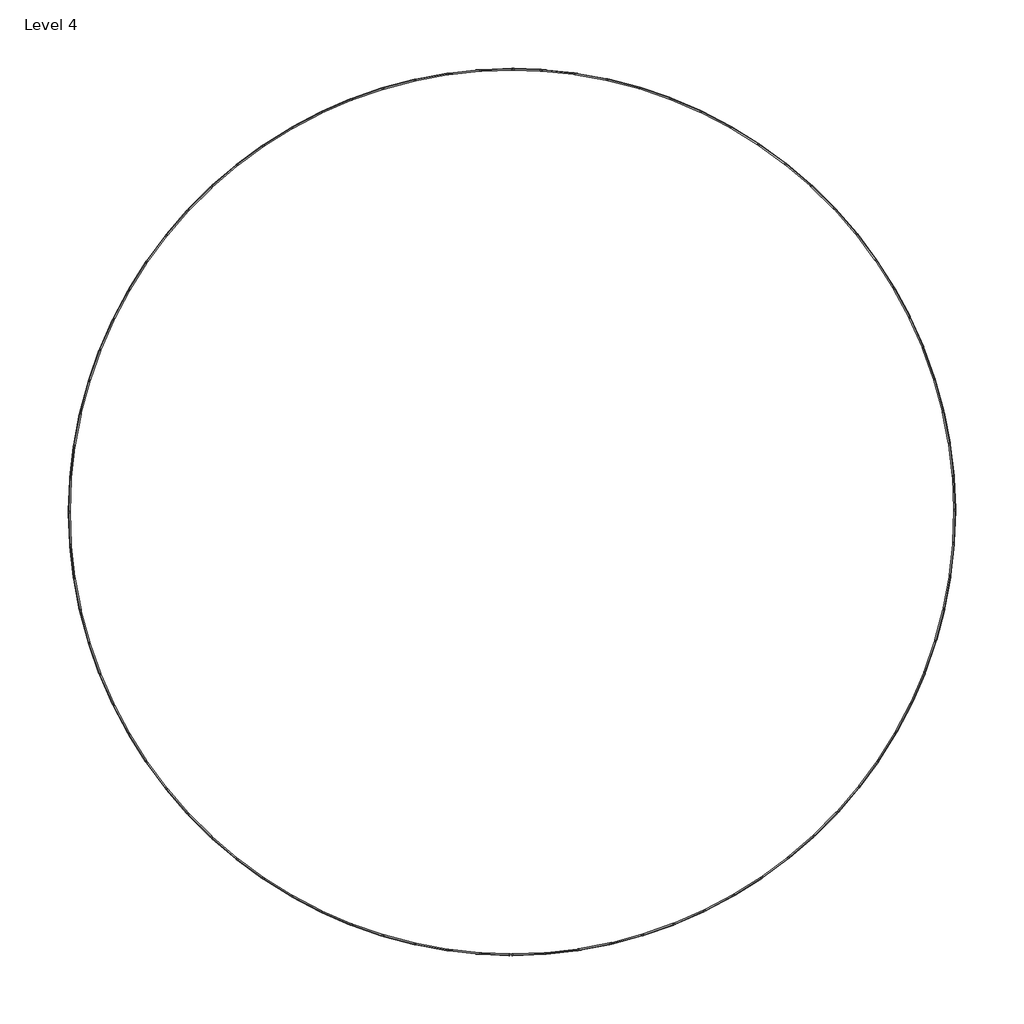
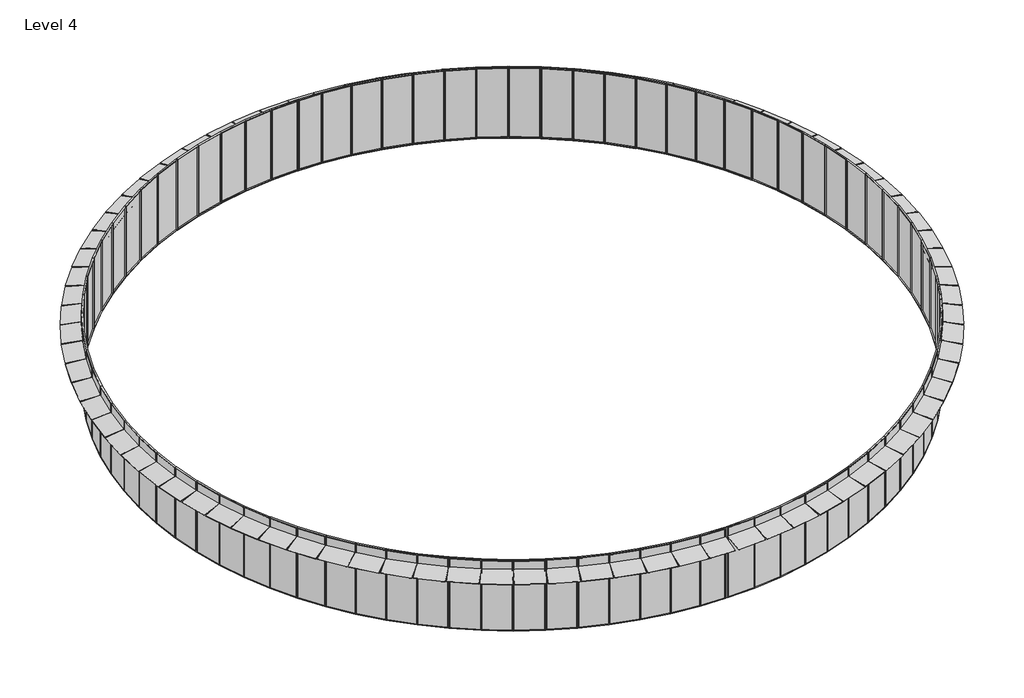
# One storey: 84 plates.
"""IFC4 building model written with IfcOpenShell, lengths in millimetres."""

from ifc_helpers import new_model, si_unit, origin, place, context, project, spatial, transform, mapped, element, save
from components import typical_panel_typical_panel_1d89b396, typical_panel_typical_panel_922f9ec0, typical_panel_typical_panel_46f82321

model = new_model("IFC4")

# Units and contexts
model_context = context("Model", 3, world=origin())
ifc_project = project(units=[si_unit("LENGTHUNIT", "METRE", prefix="MILLI")], contexts=[model_context])

# Site, building, storey
site = spatial("IfcSite", under=ifc_project)
building = spatial("IfcBuilding", under=site)
storey = spatial("IfcBuildingStorey", under=building, Name="Level 4", Elevation=12000.0)

# Plates
placement = place(None, origin())
typical_panel_typical_panel_shape = typical_panel_typical_panel_1d89b396(model_context)
element("IfcPlate", 1, ObjectType="Typical Panel : Typical Panel", at=placement, inside=storey, context=model_context, shape_type="MappedRepresentation", body=[
    mapped(typical_panel_typical_panel_shape, transform((749.4724807, -19971.8749993, 12000.0), x_axis=(0.9992966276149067, 0.037500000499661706, 0.0), y_axis=(-0.037500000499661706, 0.9992966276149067, 0.0), z_axis=(0.0, 0.0, 1.0))),
])
element("IfcPlate", 2, ObjectType="Typical Panel : Typical Panel", at=placement, inside=storey, context=model_context, shape_type="MappedRepresentation", body=[
    mapped(typical_panel_typical_panel_shape, transform((-658.0734428, 19975.0954773, 12000.0), x_axis=(-0.9994577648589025, -0.03292683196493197, 0.0), y_axis=(0.03292683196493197, -0.9994577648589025, 0.0), z_axis=(0.0, 0.0, 1.0))),
])
typical_panel_typical_panel_2_shape = typical_panel_typical_panel_922f9ec0(model_context)
element("IfcPlate", 3, ObjectType="Typical Panel : Typical Panel", at=placement, inside=storey, context=model_context, shape_type="MappedRepresentation", body=[
    mapped(typical_panel_typical_panel_2_shape, transform((2244.2016494, -19859.5332009, 12000.0), x_axis=(0.993675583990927, 0.11228906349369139, 0.0), y_axis=(-0.11228906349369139, 0.993675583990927, 0.0), z_axis=(0.0, 0.0, 1.0))),
])
element("IfcPlate", 4, ObjectType="Typical Panel : Typical Panel", at=placement, inside=storey, context=model_context, shape_type="MappedRepresentation", body=[
    mapped(typical_panel_typical_panel_2_shape, transform((3726.3071738, -19635.4815283, 12000.0), x_axis=(0.9824651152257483, 0.18644650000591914, 0.0), y_axis=(-0.18644650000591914, 0.9824651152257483, 0.0), z_axis=(0.0, 0.0, 1.0))),
])
element("IfcPlate", 5, ObjectType="Typical Panel : Typical Panel", at=placement, inside=storey, context=model_context, shape_type="MappedRepresentation", body=[
    mapped(typical_panel_typical_panel_2_shape, transform((5187.4522204, -19300.980272, 12000.0), x_axis=(0.9657282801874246, 0.25955517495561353, 0.0), y_axis=(-0.25955517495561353, 0.9657282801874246, 0.0), z_axis=(0.0, 0.0, 1.0))),
])
element("IfcPlate", 6, ObjectType="Typical Panel : Typical Panel", at=placement, inside=storey, context=model_context, shape_type="MappedRepresentation", body=[
    mapped(typical_panel_typical_panel_2_shape, transform((6619.4178482, -18857.9110018, 12000.0), x_axis=(0.9435592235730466, 0.33120385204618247, 0.0), y_axis=(-0.33120385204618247, 0.9435592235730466, 0.0), z_axis=(0.0, 0.0, 1.0))),
])
element("IfcPlate", 7, ObjectType="Typical Panel : Typical Panel", at=placement, inside=storey, context=model_context, shape_type="MappedRepresentation", body=[
    mapped(typical_panel_typical_panel_2_shape, transform((8014.1492506, -18308.7659821, 12000.0), x_axis=(0.9160826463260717, 0.4009895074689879, 0.0), y_axis=(-0.4009895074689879, 0.9160826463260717, 0.0), z_axis=(0.0, 0.0, 1.0))),
])
element("IfcPlate", 8, ObjectType="Typical Panel : Typical Panel", at=placement, inside=storey, context=model_context, shape_type="MappedRepresentation", body=[
    mapped(typical_panel_typical_panel_2_shape, transform((9363.8010635, -17656.6341539, 12000.0), x_axis=(0.8834531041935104, 0.46851959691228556, 0.0), y_axis=(-0.46851959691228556, 0.8834531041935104, 0.0), z_axis=(0.0, 0.0, 1.0))),
])
element("IfcPlate", 9, ObjectType="Typical Panel : Typical Panel", at=placement, inside=storey, context=model_context, shape_type="MappedRepresentation", body=[
    mapped(typical_panel_typical_panel_2_shape, transform((10660.7814954, -16905.1837585, 12000.0), x_axis=(0.8458541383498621, 0.5334142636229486, 0.0), y_axis=(-0.5334142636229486, 0.8458541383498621, 0.0), z_axis=(0.0, 0.0, 1.0))),
])
element("IfcPlate", 10, ObjectType="Typical Panel : Typical Panel", at=placement, inside=storey, context=model_context, shape_type="MappedRepresentation", body=[
    mapped(typical_panel_typical_panel_2_shape, transform((11897.7950314, -16058.6417044, 12000.0), x_axis=(0.8034972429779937, 0.5953084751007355, 0.0), y_axis=(-0.5953084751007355, 0.8034972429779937, 0.0), z_axis=(0.0, 0.0, 1.0))),
])
element("IfcPlate", 11, ObjectType="Typical Panel : Typical Panel", at=placement, inside=storey, context=model_context, shape_type="MappedRepresentation", body=[
    mapped(typical_panel_typical_panel_2_shape, transform((13067.8834703, -15121.7697908, 12000.0), x_axis=(0.7566206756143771, 0.6538540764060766, 0.0), y_axis=(-0.6538540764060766, 0.7566206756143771, 0.0), z_axis=(0.0, 0.0, 1.0))),
])
element("IfcPlate", 12, ObjectType="Typical Panel : Typical Panel", at=placement, inside=storey, context=model_context, shape_type="MappedRepresentation", body=[
    mapped(typical_panel_typical_panel_2_shape, transform((14164.4650648, -14099.8379221, 12000.0), x_axis=(0.7054881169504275, 0.7087217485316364, 0.0), y_axis=(-0.7087217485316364, 0.7054881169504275, 0.0), z_axis=(0.0, 0.0, 1.0))),
])
element("IfcPlate", 13, ObjectType="Typical Panel : Typical Panel", at=placement, inside=storey, context=model_context, shape_type="MappedRepresentation", body=[
    mapped(typical_panel_typical_panel_2_shape, transform((15181.3715432, -12998.5944651, 12000.0), x_axis=(0.6503871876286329, 0.7596028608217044, 0.0), y_axis=(-0.7596028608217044, 0.6503871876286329, 0.0), z_axis=(0.0, 0.0, 1.0))),
])
element("IfcPlate", 14, ObjectType="Typical Panel : Typical Panel", at=placement, inside=storey, context=model_context, shape_type="MappedRepresentation", body=[
    mapped(typical_panel_typical_panel_2_shape, transform((16112.8828067, -11824.2339142, 12000.0), x_axis=(0.5916278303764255, 0.8062112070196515, 0.0), y_axis=(-0.8062112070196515, 0.5916278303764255, 0.0), z_axis=(0.0, 0.0, 1.0))),
])
element("IfcPlate", 15, ObjectType="Typical Panel : Typical Panel", at=placement, inside=storey, context=model_context, shape_type="MappedRepresentation", body=[
    mapped(typical_panel_typical_panel_2_shape, transform((16953.7591044, -10583.3620475, 12000.0), x_axis=(0.5295405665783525, 0.848284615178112, 0.0), y_axis=(-0.848284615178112, 0.5295405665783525, 0.0), z_axis=(0.0, 0.0, 1.0))),
])
element("IfcPlate", 16, ObjectType="Typical Panel : Typical Panel", at=placement, inside=storey, context=model_context, shape_type="MappedRepresentation", body=[
    mapped(typical_panel_typical_panel_2_shape, transform((17699.2705072, -9282.9587694, 12000.0), x_axis=(0.4644746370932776, 0.8855864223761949, 0.0), y_axis=(-0.8855864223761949, 0.4644746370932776, 0.0), z_axis=(0.0, 0.0, 1.0))),
])
element("IfcPlate", 17, ObjectType="Typical Panel : Typical Panel", at=placement, inside=storey, context=model_context, shape_type="MappedRepresentation", body=[
    mapped(typical_panel_typical_panel_2_shape, transform((18345.2235133, -7930.3388481, 12000.0), x_axis=(0.396796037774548, 0.9179068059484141, 0.0), y_axis=(-0.9179068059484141, 0.396796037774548, 0.0), z_axis=(0.0, 0.0, 1.0))),
])
element("IfcPlate", 18, ObjectType="Typical Panel : Typical Panel", at=placement, inside=storey, context=model_context, shape_type="MappedRepresentation", body=[
    mapped(typical_panel_typical_panel_2_shape, transform((18887.9846372, -6533.1107709, 12000.0), x_axis=(0.32688546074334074, 0.9450639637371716, 0.0), y_axis=(-0.9450639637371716, 0.32688546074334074, 0.0), z_axis=(0.0, 0.0, 1.0))),
])
element("IfcPlate", 19, ObjectType="Typical Panel : Typical Panel", at=placement, inside=storey, context=model_context, shape_type="MappedRepresentation", body=[
    mapped(typical_panel_typical_panel_2_shape, transform((19324.5008475, -5099.1339455, 12000.0), x_axis=(0.25513615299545, 0.9669051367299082, 0.0), y_axis=(-0.9669051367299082, 0.25513615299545, 0.0), z_axis=(0.0, 0.0, 1.0))),
])
element("IfcPlate", 20, ObjectType="Typical Panel : Typical Panel", at=placement, inside=storey, context=model_context, shape_type="MappedRepresentation", body=[
    mapped(typical_panel_typical_panel_2_shape, transform((19652.3167406, -3636.4744917, 12000.0), x_axis=(0.18195170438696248, 0.9833074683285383, 0.0), y_axis=(-0.9833074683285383, 0.18195170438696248, 0.0), z_axis=(0.0, 0.0, 1.0))),
])
element("IfcPlate", 21, ObjectType="Typical Panel : Typical Panel", at=placement, inside=storey, context=model_context, shape_type="MappedRepresentation", body=[
    mapped(typical_panel_typical_panel_2_shape, transform((19869.5883519, -2153.3598689, 12000.0), x_axis=(0.10774377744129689, 0.994178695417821, 0.0), y_axis=(-0.994178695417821, 0.10774377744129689, 0.0), z_axis=(0.0, 0.0, 1.0))),
])
element("IfcPlate", 22, ObjectType="Typical Panel : Typical Panel", at=placement, inside=storey, context=model_context, shape_type="MappedRepresentation", body=[
    mapped(typical_panel_typical_panel_2_shape, transform((19975.0935288, -658.1325968, 12000.0), x_axis=(0.032929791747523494, 0.9994576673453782, 0.0), y_axis=(-0.9994576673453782, 0.032929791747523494, 0.0), z_axis=(0.0, 0.0, 1.0))),
])
element("IfcPlate", 23, ObjectType="Typical Panel : Typical Panel", at=placement, inside=storey, context=model_context, shape_type="MappedRepresentation", body=[
    mapped(typical_panel_typical_panel_2_shape, transform((19968.2388046, 840.7966711, 12000.0), x_axis=(-0.04206942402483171, 0.9991146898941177, 0.0), y_axis=(-0.9991146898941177, -0.04206942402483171, 0.0), z_axis=(0.0, 0.0, 1.0))),
])
element("IfcPlate", 24, ObjectType="Typical Panel : Typical Panel", at=placement, inside=storey, context=model_context, shape_type="MappedRepresentation", body=[
    mapped(typical_panel_typical_panel_2_shape, transform((19849.0627371, 2334.9964577, 12000.0), x_axis=(-0.1168319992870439, 0.9931516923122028, 0.0), y_axis=(-0.9931516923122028, -0.1168319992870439, 0.0), z_axis=(0.0, 0.0, 1.0))),
])
element("IfcPlate", 25, ObjectType="Typical Panel : Typical Panel", at=placement, inside=storey, context=model_context, shape_type="MappedRepresentation", body=[
    mapped(typical_panel_typical_panel_2_shape, transform((19618.2356917, 3816.0618893, 12000.0), x_axis=(-0.1909373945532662, 0.9816022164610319, 0.0), y_axis=(-0.9816022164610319, -0.1909373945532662, 0.0), z_axis=(0.0, 0.0, 1.0))),
])
element("IfcPlate", 26, ObjectType="Typical Panel : Typical Panel", at=placement, inside=storey, context=model_context, shape_type="MappedRepresentation", body=[
    mapped(typical_panel_typical_panel_2_shape, transform((19277.0560706, 5275.6619728, 12000.0), x_axis=(-0.26396876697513, 0.9645312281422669, 0.0), y_axis=(-0.9645312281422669, -0.26396876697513, 0.0), z_axis=(0.0, 0.0, 1.0))),
])
element("IfcPlate", 27, ObjectType="Typical Panel : Typical Panel", at=placement, inside=storey, context=model_context, shape_type="MappedRepresentation", body=[
    mapped(typical_panel_typical_panel_2_shape, transform((18827.4430091, 6705.5864576, 12000.0), x_axis=(-0.3355153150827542, 0.9420347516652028, 0.0), y_axis=(-0.9420347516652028, -0.3355153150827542, 0.0), z_axis=(0.0, 0.0, 1.0))),
])
element("IfcPlate", 28, ObjectType="Typical Panel : Typical Panel", at=placement, inside=storey, context=model_context, shape_type="MappedRepresentation", body=[
    mapped(typical_panel_typical_panel_2_shape, transform((18271.9255806, 8097.7920187, 12000.0), x_axis=(-0.40517458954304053, 0.9142393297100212, 0.0), y_axis=(-0.9142393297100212, -0.40517458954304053, 0.0), z_axis=(0.0, 0.0, 1.0))),
])
element("IfcPlate", 29, ObjectType="Typical Panel : Typical Panel", at=placement, inside=storey, context=model_context, shape_type="MappedRepresentation", body=[
    mapped(typical_panel_typical_panel_2_shape, transform((17613.6285707, 9444.4474996, 12000.0), x_axis=(-0.47255475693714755, 0.8813013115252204, 0.0), y_axis=(-0.8813013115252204, -0.47255475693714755, 0.0), z_axis=(0.0, 0.0, 1.0))),
])
element("IfcPlate", 30, ObjectType="Typical Panel : Typical Panel", at=placement, inside=storey, context=model_context, shape_type="MappedRepresentation", body=[
    mapped(typical_panel_typical_panel_2_shape, transform((16856.2549002, 10737.9779633, 12000.0), x_axis=(-0.5372768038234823, 0.8434059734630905, 0.0), y_axis=(-0.8434059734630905, -0.5372768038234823, 0.0), z_axis=(0.0, 0.0, 1.0))),
])
element("IfcPlate", 31, ObjectType="Typical Panel : Typical Panel", at=placement, inside=storey, context=model_context, shape_type="MappedRepresentation", body=[
    mapped(typical_panel_typical_panel_2_shape, transform((16004.0647958, 11971.107301, 12000.0), x_axis=(-0.5989766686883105, 0.8007664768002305, 0.0), y_axis=(-0.8007664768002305, -0.5989766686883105, 0.0), z_axis=(0.0, 0.0, 1.0))),
])
element("IfcPlate", 32, ObjectType="Typical Panel : Typical Panel", at=placement, inside=storey, context=model_context, shape_type="MappedRepresentation", body=[
    mapped(typical_panel_typical_panel_2_shape, transform((15061.8518269, 13136.8991602, 12000.0), x_axis=(-0.657307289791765, 0.7536226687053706, 0.0), y_axis=(-0.7536226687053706, -0.657307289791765, 0.0), z_axis=(0.0, 0.0, 1.0))),
])
element("IfcPlate", 33, ObjectType="Typical Panel : Typical Panel", at=placement, inside=storey, context=model_context, shape_type="MappedRepresentation", body=[
    mapped(typical_panel_typical_panel_2_shape, transform((14034.9159415, 14228.7959615, 12000.0), x_axis=(-0.7119405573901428, 0.7022397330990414, 0.0), y_axis=(-0.7022397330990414, -0.7119405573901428, 0.0), z_axis=(0.0, 0.0, 1.0))),
])
element("IfcPlate", 34, ObjectType="Typical Panel : Typical Panel", at=placement, inside=storey, context=model_context, shape_type="MappedRepresentation", body=[
    mapped(typical_panel_typical_panel_2_shape, transform((12929.033654, 15240.6557856, 12000.0), x_axis=(-0.762569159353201, 0.64690669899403, 0.0), y_axis=(-0.64690669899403, -0.762569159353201, 0.0), z_axis=(0.0, 0.0, 1.0))),
])
element("IfcPlate", 35, ObjectType="Typical Panel : Typical Panel", at=placement, inside=storey, context=model_context, shape_type="MappedRepresentation", body=[
    mapped(typical_panel_typical_panel_2_shape, transform((11750.4255521, 16166.7869209, 12000.0), x_axis=(-0.8089083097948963, 0.5879348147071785, 0.0), y_axis=(-0.5879348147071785, -0.8089083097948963, 0.0), z_axis=(0.0, 0.0, 1.0))),
])
element("IfcPlate", 36, ObjectType="Typical Panel : Typical Panel", at=placement, inside=storey, context=model_context, shape_type="MappedRepresentation", body=[
    mapped(typical_panel_typical_panel_2_shape, transform((10505.7213065, 17001.9798797, 12000.0), x_axis=(-0.8506973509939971, 0.5256557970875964, 0.0), y_axis=(-0.5256557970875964, -0.8506973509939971, 0.0), z_axis=(0.0, 0.0, 1.0))),
])
element("IfcPlate", 37, ObjectType="Typical Panel : Typical Panel", at=placement, inside=storey, context=model_context, shape_type="MappedRepresentation", body=[
    mapped(typical_panel_typical_panel_2_shape, transform((9201.9223786, 17741.5367017, 12000.0), x_axis=(-0.8877012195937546, 0.4604199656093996, 0.0), y_axis=(-0.4604199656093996, -0.8877012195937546, 0.0), z_axis=(0.0, 0.0, 1.0))),
])
element("IfcPlate", 38, ObjectType="Typical Panel : Typical Panel", at=placement, inside=storey, context=model_context, shape_type="MappedRepresentation", body=[
    mapped(typical_panel_typical_panel_2_shape, transform((7846.3626373, 18381.2973798, 12000.0), x_axis=(-0.9197117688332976, 0.39259427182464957, 0.0), y_axis=(-0.39259427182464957, -0.9197117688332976, 0.0), z_axis=(0.0, 0.0, 1.0))),
])
element("IfcPlate", 39, ObjectType="Typical Panel : Typical Panel", at=placement, inside=storey, context=model_context, shape_type="MappedRepresentation", body=[
    mapped(typical_panel_typical_panel_2_shape, transform((6446.6671061, 18917.6632601, 12000.0), x_axis=(-0.9465489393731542, 0.322560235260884, 0.0), y_axis=(-0.322560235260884, -0.9465489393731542, 0.0), z_axis=(0.0, 0.0, 1.0))),
])
element("IfcPlate", 40, ObjectType="Typical Panel : Typical Panel", at=placement, inside=storey, context=model_context, shape_type="MappedRepresentation", body=[
    mapped(typical_panel_typical_panel_2_shape, transform((5010.7090725, 19347.6172846, 12000.0), x_axis=(-0.9680617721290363, 0.25071179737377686, 0.0), y_axis=(-0.25071179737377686, -0.9680617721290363, 0.0), z_axis=(0.0, 0.0, 1.0))),
])
element("IfcPlate", 41, ObjectType="Typical Panel : Typical Panel", at=placement, inside=storey, context=model_context, shape_type="MappedRepresentation", body=[
    mapped(typical_panel_typical_panel_2_shape, transform((3546.5658003, 19668.7409618, 12000.0), x_axis=(-0.9841292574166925, 0.1774531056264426, 0.0), y_axis=(-0.1774531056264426, -0.9841292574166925, 0.0), z_axis=(0.0, 0.0, 1.0))),
])
element("IfcPlate", 42, ObjectType="Typical Panel : Typical Panel", at=placement, inside=storey, context=model_context, shape_type="MappedRepresentation", body=[
    mapped(typical_panel_typical_panel_2_shape, transform((2062.4730955, 19879.2279712, 12000.0), x_axis=(-0.9946610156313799, 0.10319624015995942, 0.0), y_axis=(-0.10319624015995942, -0.9946610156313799, 0.0), z_axis=(0.0, 0.0, 1.0))),
])
element("IfcPlate", 43, ObjectType="Typical Panel : Typical Panel", at=placement, inside=storey, context=model_context, shape_type="MappedRepresentation", body=[
    mapped(typical_panel_typical_panel_2_shape, transform((-2153.3010373, 19869.5947277, 12000.0), x_axis=(-0.9941790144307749, -0.10774083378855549, 0.0), y_axis=(0.10774083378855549, -0.9941790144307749, 0.0), z_axis=(0.0, 0.0, 1.0))),
])
element("IfcPlate", 44, ObjectType="Typical Panel : Typical Panel", at=placement, inside=storey, context=model_context, shape_type="MappedRepresentation", body=[
    mapped(typical_panel_typical_panel_2_shape, transform((-3636.4163034, 19652.3275077, 12000.0), x_axis=(-0.983308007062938, -0.18194879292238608, 0.0), y_axis=(0.18194879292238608, -0.983308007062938, 0.0), z_axis=(0.0, 0.0, 1.0))),
])
element("IfcPlate", 45, ObjectType="Typical Panel : Typical Panel", at=placement, inside=storey, context=model_context, shape_type="MappedRepresentation", body=[
    mapped(typical_panel_typical_panel_2_shape, transform((-5099.0767278, 19324.5159454, 12000.0), x_axis=(-0.9669058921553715, -0.25513329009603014, 0.0), y_axis=(0.25513329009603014, -0.9669058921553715, 0.0), z_axis=(0.0, 0.0, 1.0))),
])
element("IfcPlate", 46, ObjectType="Typical Panel : Typical Panel", at=placement, inside=storey, context=model_context, shape_type="MappedRepresentation", body=[
    mapped(typical_panel_typical_panel_2_shape, transform((-6533.0548456, 18888.0039809, 12000.0), x_axis=(-0.9450649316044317, -0.3268826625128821, 0.0), y_axis=(0.3268826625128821, -0.9450649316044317, 0.0), z_axis=(0.0, 0.0, 1.0))),
])
element("IfcPlate", 47, ObjectType="Typical Panel : Typical Panel", at=placement, inside=storey, context=model_context, shape_type="MappedRepresentation", body=[
    mapped(typical_panel_typical_panel_2_shape, transform((-7930.2845299, 18345.2469941, 12000.0), x_axis=(-0.9179079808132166, -0.39679331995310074, 0.0), y_axis=(0.39679331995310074, -0.9179079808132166, 0.0), z_axis=(0.0, 0.0, 1.0))),
])
element("IfcPlate", 48, ObjectType="Typical Panel : Typical Panel", at=placement, inside=storey, context=model_context, shape_type="MappedRepresentation", body=[
    mapped(typical_panel_typical_panel_2_shape, transform((-9282.9063638, 17699.2979929, 12000.0), x_axis=(-0.8855877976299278, -0.4644720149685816, 0.0), y_axis=(0.4644720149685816, -0.8855877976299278, 0.0), z_axis=(0.0, 0.0, 1.0))),
])
element("IfcPlate", 49, ObjectType="Typical Panel : Typical Panel", at=placement, inside=storey, context=model_context, shape_type="MappedRepresentation", body=[
    mapped(typical_panel_typical_panel_2_shape, transform((-10583.3118493, 16953.7904405, 12000.0), x_axis=(-0.8482861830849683, -0.5295380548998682, 0.0), y_axis=(0.5295380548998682, -0.8482861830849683, 0.0), z_axis=(0.0, 0.0, 1.0))),
])
element("IfcPlate", 50, ObjectType="Typical Panel : Typical Panel", at=placement, inside=storey, context=model_context, shape_type="MappedRepresentation", body=[
    mapped(typical_panel_typical_panel_2_shape, transform((-11824.1862057, 16112.9178169, 12000.0), x_axis=(-0.806212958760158, -0.5916254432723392, 0.0), y_axis=(0.5916254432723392, -0.806212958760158, 0.0), z_axis=(0.0, 0.0, 1.0))),
])
element("IfcPlate", 51, ObjectType="Typical Panel : Typical Panel", at=placement, inside=storey, context=model_context, shape_type="MappedRepresentation", body=[
    mapped(typical_panel_typical_panel_2_shape, transform((-12998.5495147, 15181.4100305, 12000.0), x_axis=(-0.7596047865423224, -0.6503849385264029, 0.0), y_axis=(0.6503849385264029, -0.7596047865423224, 0.0), z_axis=(0.0, 0.0, 1.0))),
])
element("IfcPlate", 52, ObjectType="Typical Panel : Typical Panel", at=placement, inside=storey, context=model_context, shape_type="MappedRepresentation", body=[
    mapped(typical_panel_typical_panel_2_shape, transform((-14099.7959826, 14164.5068128, 12000.0), x_axis=(-0.7087238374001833, -0.7054860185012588, 0.0), y_axis=(0.7054860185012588, -0.7087238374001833, 0.0), z_axis=(0.0, 0.0, 1.0))),
])
element("IfcPlate", 53, ObjectType="Typical Panel : Typical Panel", at=placement, inside=storey, context=model_context, shape_type="MappedRepresentation", body=[
    mapped(typical_panel_typical_panel_2_shape, transform((-15121.7310982, 13067.9282442, 12000.0), x_axis=(-0.6538563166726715, -0.7566187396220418, 0.0), y_axis=(0.7566187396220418, -0.6538563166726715, 0.0), z_axis=(0.0, 0.0, 1.0))),
])
element("IfcPlate", 54, ObjectType="Typical Panel : Typical Panel", at=placement, inside=storey, context=model_context, shape_type="MappedRepresentation", body=[
    mapped(typical_panel_typical_panel_2_shape, transform((-16058.6064763, 11897.8425792, 12000.0), x_axis=(-0.5953108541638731, -0.8034954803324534, 0.0), y_axis=(0.8034954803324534, -0.5953108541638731, 0.0), z_axis=(0.0, 0.0, 1.0))),
])
element("IfcPlate", 55, ObjectType="Typical Panel : Typical Panel", at=placement, inside=storey, context=model_context, shape_type="MappedRepresentation", body=[
    mapped(typical_panel_typical_panel_2_shape, transform((-16905.152193, 10660.8315497, 12000.0), x_axis=(-0.5334167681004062, -0.8458525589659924, 0.0), y_axis=(0.8458525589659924, -0.5334167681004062, 0.0), z_axis=(0.0, 0.0, 1.0))),
])
element("IfcPlate", 56, ObjectType="Typical Panel : Typical Panel", at=placement, inside=storey, context=model_context, shape_type="MappedRepresentation", body=[
    mapped(typical_panel_typical_panel_2_shape, transform((-17656.6064286, 9363.8533428, 12000.0), x_axis=(-0.4685222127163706, -0.8834517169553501, 0.0), y_axis=(0.8834517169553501, -0.4685222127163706, 0.0), z_axis=(0.0, 0.0, 1.0))),
])
element("IfcPlate", 57, ObjectType="Typical Panel : Typical Panel", at=placement, inside=storey, context=model_context, shape_type="MappedRepresentation", body=[
    mapped(typical_panel_typical_panel_2_shape, transform((-18308.7422531, 8014.2034608, 12000.0), x_axis=(-0.4009922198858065, -0.9160814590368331, 0.0), y_axis=(0.9160814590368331, -0.4009922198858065, 0.0), z_axis=(0.0, 0.0, 1.0))),
])
element("IfcPlate", 58, ObjectType="Typical Panel : Typical Panel", at=placement, inside=storey, context=model_context, shape_type="MappedRepresentation", body=[
    mapped(typical_panel_typical_panel_2_shape, transform((-18857.8914023, 6619.4736843, 12000.0), x_axis=(-0.3312066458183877, -0.9435582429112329, 0.0), y_axis=(0.9435582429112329, -0.3312066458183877, 0.0), z_axis=(0.0, 0.0, 1.0))),
])
element("IfcPlate", 59, ObjectType="Typical Panel : Typical Panel", at=placement, inside=storey, context=model_context, shape_type="MappedRepresentation", body=[
    mapped(typical_panel_typical_panel_2_shape, transform((-19300.9649125, 5187.5093684, 12000.0), x_axis=(-0.2595580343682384, -0.9657275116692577, 0.0), y_axis=(0.9657275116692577, -0.2595580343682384, 0.0), z_axis=(0.0, 0.0, 1.0))),
])
element("IfcPlate", 60, ObjectType="Typical Panel : Typical Panel", at=placement, inside=storey, context=model_context, shape_type="MappedRepresentation", body=[
    mapped(typical_panel_typical_panel_2_shape, transform((-19635.470495, 3726.3653123, 12000.0), x_axis=(-0.18644940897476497, -0.9824645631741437, 0.0), y_axis=(0.9824645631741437, -0.18644940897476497, 0.0), z_axis=(0.0, 0.0, 1.0))),
])
element("IfcPlate", 61, ObjectType="Typical Panel : Typical Panel", at=placement, inside=storey, context=model_context, shape_type="MappedRepresentation", body=[
    mapped(typical_panel_typical_panel_2_shape, transform((-19859.526556, 2244.2604512, 12000.0), x_axis=(-0.11229200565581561, -0.9936752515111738, 0.0), y_axis=(0.9936752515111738, -0.11229200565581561, 0.0), z_axis=(0.0, 0.0, 1.0))),
])
element("IfcPlate", 62, ObjectType="Typical Panel : Typical Panel", at=placement, inside=storey, context=model_context, shape_type="MappedRepresentation", body=[
    mapped(typical_panel_typical_panel_2_shape, transform((-19971.8727801, 749.5316252, 12000.0), x_axis=(-0.037502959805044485, -0.9992965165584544, 0.0), y_axis=(0.9992965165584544, -0.037502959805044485, 0.0), z_axis=(0.0, 0.0, 1.0))),
])
element("IfcPlate", 63, ObjectType="Typical Panel : Typical Panel", at=placement, inside=storey, context=model_context, shape_type="MappedRepresentation", body=[
    mapped(typical_panel_typical_panel_2_shape, transform((-19971.8772198, -749.4133163, 12000.0), x_axis=(0.03749704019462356, -0.9992967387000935, 0.0), y_axis=(0.9992967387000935, 0.03749704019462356, 0.0), z_axis=(0.0, 0.0, 1.0))),
])
element("IfcPlate", 64, ObjectType="Typical Panel : Typical Panel", at=placement, inside=storey, context=model_context, shape_type="MappedRepresentation", body=[
    mapped(typical_panel_typical_panel_2_shape, transform((-19859.5398501, -2244.1428078, 12000.0), x_axis=(0.11228611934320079, -0.9936759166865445, 0.0), y_axis=(0.9936759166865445, 0.11228611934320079, 0.0), z_axis=(0.0, 0.0, 1.0))),
])
element("IfcPlate", 65, ObjectType="Typical Panel : Typical Panel", at=placement, inside=storey, context=model_context, shape_type="MappedRepresentation", body=[
    mapped(typical_panel_typical_panel_2_shape, transform((-19635.4925688, -3726.248996, 12000.0), x_axis=(0.1864435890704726, -0.9824656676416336, 0.0), y_axis=(0.9824656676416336, 0.1864435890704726, 0.0), z_axis=(0.0, 0.0, 1.0))),
])
element("IfcPlate", 66, ObjectType="Typical Panel : Typical Panel", at=placement, inside=storey, context=model_context, shape_type="MappedRepresentation", body=[
    mapped(typical_panel_typical_panel_2_shape, transform((-19300.9956418, -5187.3950337, 12000.0), x_axis=(0.25955231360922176, -0.9657290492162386, 0.0), y_axis=(0.9657290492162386, 0.25955231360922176, 0.0), z_axis=(0.0, 0.0, 1.0))),
])
element("IfcPlate", 67, ObjectType="Typical Panel : Typical Panel", at=placement, inside=storey, context=model_context, shape_type="MappedRepresentation", body=[
    mapped(typical_panel_typical_panel_2_shape, transform((-18857.9306143, -6619.3619743, 12000.0), x_axis=(0.3312010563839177, -0.9435602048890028, 0.0), y_axis=(0.9435602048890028, 0.3312010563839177, 0.0), z_axis=(0.0, 0.0, 1.0))),
])
element("IfcPlate", 68, ObjectType="Typical Panel : Typical Panel", at=placement, inside=storey, context=model_context, shape_type="MappedRepresentation", body=[
    mapped(typical_panel_typical_panel_2_shape, transform((-18308.7897271, -8014.0950037, 12000.0), x_axis=(0.4009867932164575, -0.9160838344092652, 0.0), y_axis=(0.9160838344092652, 0.4009867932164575, 0.0), z_axis=(0.0, 0.0, 1.0))),
])
element("IfcPlate", 69, ObjectType="Typical Panel : Typical Panel", at=placement, inside=storey, context=model_context, shape_type="MappedRepresentation", body=[
    mapped(typical_panel_typical_panel_2_shape, transform((-17656.6618977, -9363.7487488, 12000.0), x_axis=(0.46851697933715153, -0.8834544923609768, 0.0), y_axis=(0.8834544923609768, 0.46851697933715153, 0.0), z_axis=(0.0, 0.0, 1.0))),
])
element("IfcPlate", 70, ObjectType="Typical Panel : Typical Panel", at=placement, inside=storey, context=model_context, shape_type="MappedRepresentation", body=[
    mapped(typical_panel_typical_panel_2_shape, transform((-16905.2153451, -10660.7314072, 12000.0), x_axis=(0.5334117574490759, -0.845855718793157, 0.0), y_axis=(0.845855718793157, 0.5334117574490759, 0.0), z_axis=(0.0, 0.0, 1.0))),
])
element("IfcPlate", 71, ObjectType="Typical Panel : Typical Panel", at=placement, inside=storey, context=model_context, shape_type="MappedRepresentation", body=[
    mapped(typical_panel_typical_panel_2_shape, transform((-16058.6769562, -11897.7474514, 12000.0), x_axis=(0.5953060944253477, -0.8034990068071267, 0.0), y_axis=(0.8034990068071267, 0.5953060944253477, 0.0), z_axis=(0.0, 0.0, 1.0))),
])
element("IfcPlate", 72, ObjectType="Typical Panel : Typical Panel", at=placement, inside=storey, context=model_context, shape_type="MappedRepresentation", body=[
    mapped(typical_panel_typical_panel_2_shape, transform((-15121.8085094, -13067.8386662, 12000.0), x_axis=(0.6538518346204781, -0.7566226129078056, 0.0), y_axis=(0.7566226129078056, 0.6538518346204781, 0.0), z_axis=(0.0, 0.0, 1.0))),
])
element("IfcPlate", 73, ObjectType="Typical Panel : Typical Panel", at=placement, inside=storey, context=model_context, shape_type="MappedRepresentation", body=[
    mapped(typical_panel_typical_panel_2_shape, transform((-14099.8798898, -14164.4232885, 12000.0), x_axis=(0.7087196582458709, -0.7054902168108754, 0.0), y_axis=(0.7054902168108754, 0.7087196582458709, 0.0), z_axis=(0.0, 0.0, 1.0))),
])
element("IfcPlate", 74, ObjectType="Typical Panel : Typical Panel", at=placement, inside=storey, context=model_context, shape_type="MappedRepresentation", body=[
    mapped(typical_panel_typical_panel_2_shape, transform((-12998.6394457, -15181.3330297, 12000.0), x_axis=(0.7596009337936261, -0.6503894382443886, 0.0), y_axis=(0.6503894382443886, 0.7596009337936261, 0.0), z_axis=(0.0, 0.0, 1.0))),
])
element("IfcPlate", 75, ObjectType="Typical Panel : Typical Panel", at=placement, inside=storey, context=model_context, shape_type="MappedRepresentation", body=[
    mapped(typical_panel_typical_panel_2_shape, transform((-11824.2816548, -16112.8477727, 12000.0), x_axis=(0.8062094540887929, -0.5916302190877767, 0.0), y_axis=(0.5916302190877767, 0.8062094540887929, 0.0), z_axis=(0.0, 0.0, 1.0))),
])
element("IfcPlate", 76, ObjectType="Typical Panel : Typical Panel", at=placement, inside=storey, context=model_context, shape_type="MappedRepresentation", body=[
    mapped(typical_panel_typical_panel_2_shape, transform((-10583.4122796, -16953.727747, 12000.0), x_axis=(0.8482830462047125, -0.5295430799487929, 0.0), y_axis=(0.5295430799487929, 0.8482830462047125, 0.0), z_axis=(0.0, 0.0, 1.0))),
])
element("IfcPlate", 77, ObjectType="Typical Panel : Typical Panel", at=placement, inside=storey, context=model_context, shape_type="MappedRepresentation", body=[
    mapped(typical_panel_typical_panel_2_shape, transform((-9283.0112103, -17699.2430027, 12000.0), x_axis=(0.8855850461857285, -0.46447726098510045, 0.0), y_axis=(0.46447726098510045, 0.8855850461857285, 0.0), z_axis=(0.0, 0.0, 1.0))),
])
element("IfcPlate", 78, ObjectType="Typical Panel : Typical Panel", at=placement, inside=storey, context=model_context, shape_type="MappedRepresentation", body=[
    mapped(typical_panel_typical_panel_2_shape, transform((-7930.3932029, -18345.2000165, 12000.0), x_axis=(0.917905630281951, -0.39679875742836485, 0.0), y_axis=(0.39679875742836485, 0.917905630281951, 0.0), z_axis=(0.0, 0.0, 1.0))),
])
element("IfcPlate", 79, ObjectType="Typical Panel : Typical Panel", at=placement, inside=storey, context=model_context, shape_type="MappedRepresentation", body=[
    mapped(typical_panel_typical_panel_2_shape, transform((-6533.1667338, -18887.9652803, 12000.0), x_axis=(0.9450629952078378, -0.32688826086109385, 0.0), y_axis=(0.32688826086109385, 0.9450629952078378, 0.0), z_axis=(0.0, 0.0, 1.0))),
])
element("IfcPlate", 80, ObjectType="Typical Panel : Typical Panel", at=placement, inside=storey, context=model_context, shape_type="MappedRepresentation", body=[
    mapped(typical_panel_typical_panel_2_shape, transform((-5099.1912018, -19324.4857393, 12000.0), x_axis=(0.9669043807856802, -0.2551390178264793, 0.0), y_axis=(0.2551390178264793, 0.9669043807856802, 0.0), z_axis=(0.0, 0.0, 1.0))),
])
element("IfcPlate", 81, ObjectType="Typical Panel : Typical Panel", at=placement, inside=storey, context=model_context, shape_type="MappedRepresentation", body=[
    mapped(typical_panel_typical_panel_2_shape, transform((-3636.5327193, -19652.305966, 12000.0), x_axis=(0.9833069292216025, -0.1819546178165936, 0.0), y_axis=(0.1819546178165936, 0.9833069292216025, 0.0), z_axis=(0.0, 0.0, 1.0))),
])
element("IfcPlate", 82, ObjectType="Typical Panel : Typical Panel", at=placement, inside=storey, context=model_context, shape_type="MappedRepresentation", body=[
    mapped(typical_panel_typical_panel_2_shape, transform((-2153.4187403, -19869.5819717, 12000.0), x_axis=(0.9941783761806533, -0.10774672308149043, 0.0), y_axis=(0.10774672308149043, 0.9941783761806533, 0.0), z_axis=(0.0, 0.0, 1.0))),
])
typical_panel_typical_panel_3_shape = typical_panel_typical_panel_46f82321(model_context)
element("IfcPlate", 83, ObjectType="Typical Panel : Typical Panel", at=placement, inside=storey, context=model_context, shape_type="MappedRepresentation", body=[
    mapped(typical_panel_typical_panel_3_shape, transform((658.2386669, 19978.3125757, 12000.0), x_axis=(-0.9994576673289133, 0.03292979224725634, 0.0), y_axis=(-0.03292979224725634, -0.9994576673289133, 0.0), z_axis=(0.0, 0.0, 1.0))),
])
element("IfcPlate", 84, ObjectType="Typical Panel : Typical Panel", at=placement, inside=storey, context=model_context, shape_type="MappedRepresentation", body=[
    mapped(typical_panel_typical_panel_3_shape, transform((-749.6524245, -19975.0913078, 12000.0), x_axis=(0.9992965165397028, -0.03750296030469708, 0.0), y_axis=(0.03750296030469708, 0.9992965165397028, 0.0), z_axis=(0.0, 0.0, 1.0))),
])

save(model, "model.ifc")
